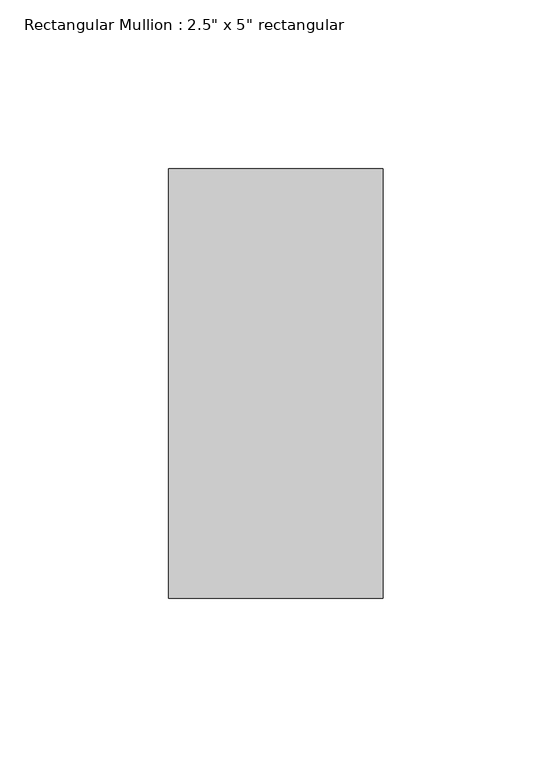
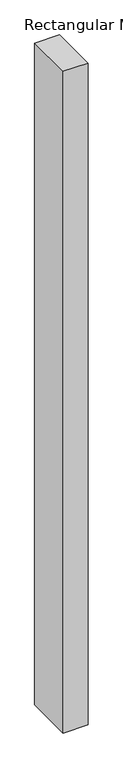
"""IFC4 building model written with IfcOpenShell, lengths in millimetres: member geometry."""

from ifc_helpers import new_model, si_unit, frame, origin, place, context, project, spatial, polyline, outline, extrude, source, transform, mapped, element, save


def member_c3fe432b(model_context):
    return source(origin(), model_context, "Body", "SweptSolid", [
        extrude(outline(polyline([(31.75, 63.5), (31.75, -63.5), (-31.75, -63.5), (-31.75, 63.5), (31.75, 63.5)])), frame((0.0, 0.0, -1797.05), z_axis=(0.0, 0.0, 1.0), x_axis=(1.0, 0.0, 0.0)), (0.0, 0.0, 1.0), 1797.05),
    ])


if __name__ == "__main__":
    model = new_model("IFC4")
    model_context = context("Model", 3, world=origin())
    ifc_project = project(units=[si_unit("LENGTHUNIT", "METRE", prefix="MILLI")], contexts=[model_context])
    site = spatial("IfcSite", under=ifc_project)
    building = spatial("IfcBuilding", under=site)
    placement = place(None, origin())
    member_shape = member_c3fe432b(model_context)
    element("IfcMember", 1, ObjectType="Rectangular Mullion : 2.5\" x 5\" rectangular", at=placement, inside=building, context=model_context, shape_type="MappedRepresentation", body=[
        mapped(member_shape, transform((0.0, 0.0, 0.0), x_axis=(1.0, 0.0, 0.0), y_axis=(0.0, 1.0, 0.0), z_axis=(0.0, 0.0, 1.0))),
    ])
    save(model, "model.ifc")
